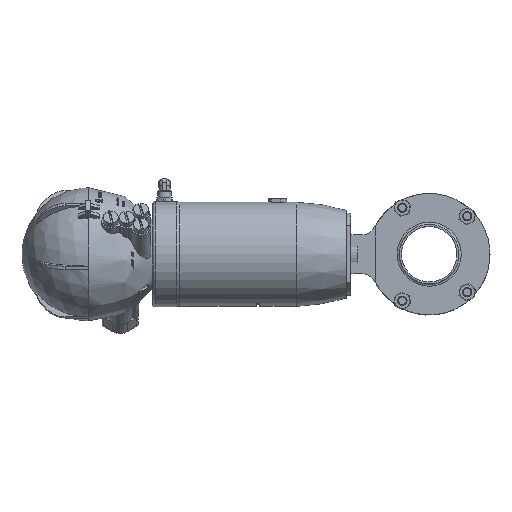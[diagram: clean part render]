
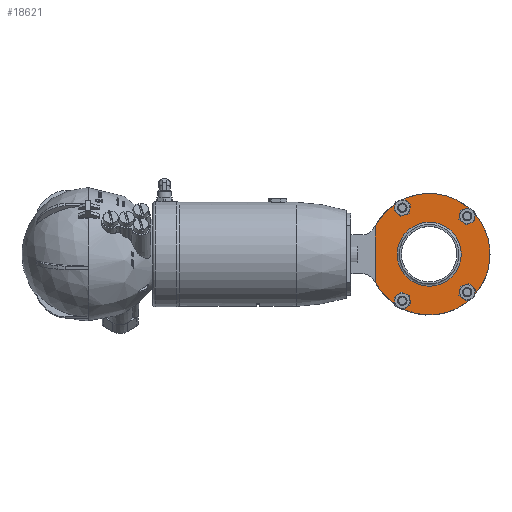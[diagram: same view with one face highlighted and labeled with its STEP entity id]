
A CAD part, top view. The second image highlights one B-rep face of the part: STEP entity #18621.
In plain terms, the highlighted planar face has unit normal (0, 0, 1) as drawn and (1, 0, 0) by its records, which use the part's own axes.
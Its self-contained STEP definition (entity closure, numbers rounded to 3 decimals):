
#1878=FACE_BOUND('',#4252,.T.);
#1879=FACE_BOUND('',#4253,.T.);
#1880=FACE_BOUND('',#4254,.T.);
#1881=FACE_BOUND('',#4255,.T.);
#1882=FACE_BOUND('',#4256,.T.);
#2075=PLANE('',#20242);
#3138=FACE_OUTER_BOUND('',#4251,.T.);
#4251=EDGE_LOOP('',(#14258,#14259));
#4252=EDGE_LOOP('',(#14260));
#4253=EDGE_LOOP('',(#14261));
#4254=EDGE_LOOP('',(#14262));
#4255=EDGE_LOOP('',(#14263));
#4256=EDGE_LOOP('',(#14264));
#5409=LINE('',#30136,#6491);
#6491=VECTOR('',#23622,10.);
#7494=CIRCLE('',#20227,52.);
#7500=CIRCLE('',#20235,4.1);
#7501=CIRCLE('',#20237,4.1);
#7502=CIRCLE('',#20239,4.1);
#7503=CIRCLE('',#20241,4.1);
#7504=CIRCLE('',#20243,27.4);
#8551=VERTEX_POINT('',#30134);
#8552=VERTEX_POINT('',#30135);
#8560=VERTEX_POINT('',#30157);
#8561=VERTEX_POINT('',#30161);
#8562=VERTEX_POINT('',#30165);
#8563=VERTEX_POINT('',#30169);
#8564=VERTEX_POINT('',#30173);
#10662=EDGE_CURVE('',#8551,#8552,#5409,.T.);
#10667=EDGE_CURVE('',#8552,#8551,#7494,.T.);
#10673=EDGE_CURVE('',#8560,#8560,#7500,.T.);
#10675=EDGE_CURVE('',#8561,#8561,#7501,.T.);
#10677=EDGE_CURVE('',#8562,#8562,#7502,.T.);
#10679=EDGE_CURVE('',#8563,#8563,#7503,.T.);
#10681=EDGE_CURVE('',#8564,#8564,#7504,.T.);
#14258=ORIENTED_EDGE('',*,*,#10662,.T.);
#14259=ORIENTED_EDGE('',*,*,#10667,.T.);
#14260=ORIENTED_EDGE('',*,*,#10673,.T.);
#14261=ORIENTED_EDGE('',*,*,#10675,.T.);
#14262=ORIENTED_EDGE('',*,*,#10677,.T.);
#14263=ORIENTED_EDGE('',*,*,#10679,.T.);
#14264=ORIENTED_EDGE('',*,*,#10681,.F.);
#18621=ADVANCED_FACE('',(#3138,#1878,#1879,#1880,#1881,#1882),#2075,.T.);
#20227=AXIS2_PLACEMENT_3D('',#30144,#23630,#23631);
#20235=AXIS2_PLACEMENT_3D('',#30158,#23646,#23647);
#20237=AXIS2_PLACEMENT_3D('',#30162,#23651,#23652);
#20239=AXIS2_PLACEMENT_3D('',#30166,#23656,#23657);
#20241=AXIS2_PLACEMENT_3D('',#30170,#23661,#23662);
#20242=AXIS2_PLACEMENT_3D('',#30172,#23664,#23665);
#20243=AXIS2_PLACEMENT_3D('',#30174,#23666,#23667);
#23622=DIRECTION('',(0.,0.,1.));
#23630=DIRECTION('center_axis',(1.,0.,0.));
#23631=DIRECTION('ref_axis',(0.,0.,-1.));
#23646=DIRECTION('center_axis',(-1.,0.,0.));
#23647=DIRECTION('ref_axis',(0.,0.,1.));
#23651=DIRECTION('center_axis',(-1.,0.,0.));
#23652=DIRECTION('ref_axis',(0.,0.,1.));
#23656=DIRECTION('center_axis',(-1.,0.,0.));
#23657=DIRECTION('ref_axis',(0.,0.,-1.));
#23661=DIRECTION('center_axis',(-1.,0.,0.));
#23662=DIRECTION('ref_axis',(0.,0.,-1.));
#23664=DIRECTION('center_axis',(1.,0.,0.));
#23665=DIRECTION('ref_axis',(0.,0.,-1.));
#23666=DIRECTION('center_axis',(1.,0.,0.));
#23667=DIRECTION('ref_axis',(0.,0.,-1.));
#30134=CARTESIAN_POINT('',(10.,46.,-24.249));
#30135=CARTESIAN_POINT('',(10.,46.,24.249));
#30136=CARTESIAN_POINT('',(10.,46.,-12.124));
#30144=CARTESIAN_POINT('Origin',(10.,0.,0.));
#30157=CARTESIAN_POINT('',(10.,23.,35.737));
#30158=CARTESIAN_POINT('Origin',(10.,23.,39.837));
#30161=CARTESIAN_POINT('',(10.,-32.527,28.427));
#30162=CARTESIAN_POINT('Origin',(10.,-32.527,32.527));
#30165=CARTESIAN_POINT('',(10.,23.,-35.737));
#30166=CARTESIAN_POINT('Origin',(10.,23.,-39.837));
#30169=CARTESIAN_POINT('',(10.,-32.527,-28.427));
#30170=CARTESIAN_POINT('Origin',(10.,-32.527,-32.527));
#30172=CARTESIAN_POINT('Origin',(10.,27.4,0.));
#30173=CARTESIAN_POINT('',(10.,0.,27.4));
#30174=CARTESIAN_POINT('Origin',(10.,0.,0.));
